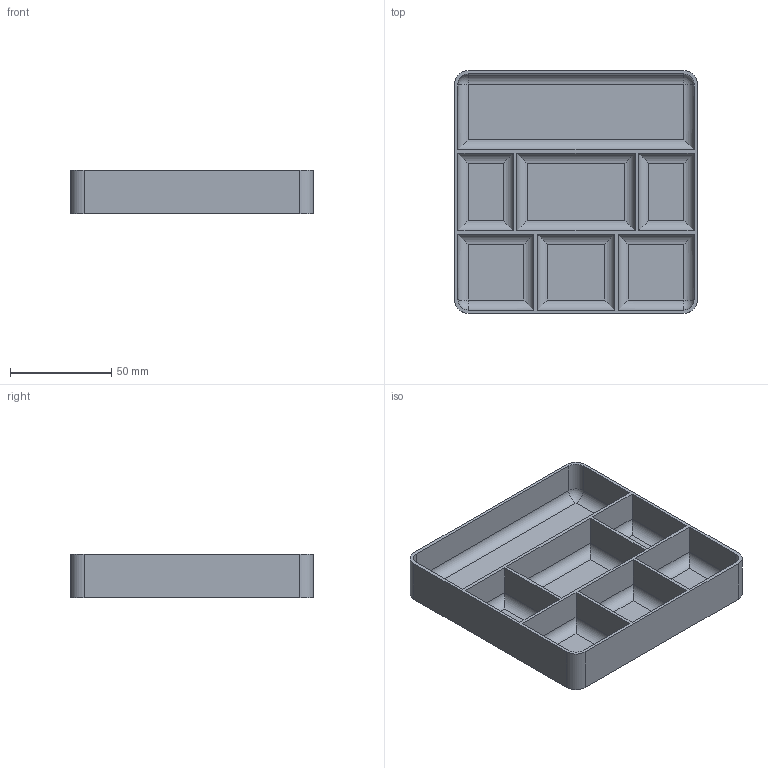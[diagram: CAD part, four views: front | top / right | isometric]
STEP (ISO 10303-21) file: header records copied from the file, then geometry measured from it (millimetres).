
FILE_DESCRIPTION(/* description */ ('STEP AP214'),/* implementation_level */ '2;1');
FILE_NAME(/* name */ '603e3d0606f095144e987119',/* time_stamp */ '2021-03-02T13:26:30+00:00',/* author */ (''),/* organization */ (''),/* preprocessor_version */ 'ST-DEVELOPER v18.1',/* originating_system */ ' ',/* authorisation */ ' ');
FILE_SCHEMA (('AUTOMOTIVE_DESIGN {1 0 10303 214 3 1 1}'));
Length unit declared in the file: metre
Products named in the file (1): Part 1
Bounding box: 120 x 120 x 21.6 mm (x, y, z)
Volume: 56325.7 mm3; surface area: 60366.7 mm2
Topology: 1 solids, 1 shells, 81 faces, 184 edges, 108 vertices
Faces by surface type: plane 41, cylinder 36, sphere 4
Entity records: 2224 total; most frequent: DIRECTION 392, CARTESIAN_POINT 370, ORIENTED_EDGE 360, EDGE_CURVE 180, LINE 132, VECTOR 132, AXIS2_PLACEMENT_3D 130, VERTEX_POINT 108
